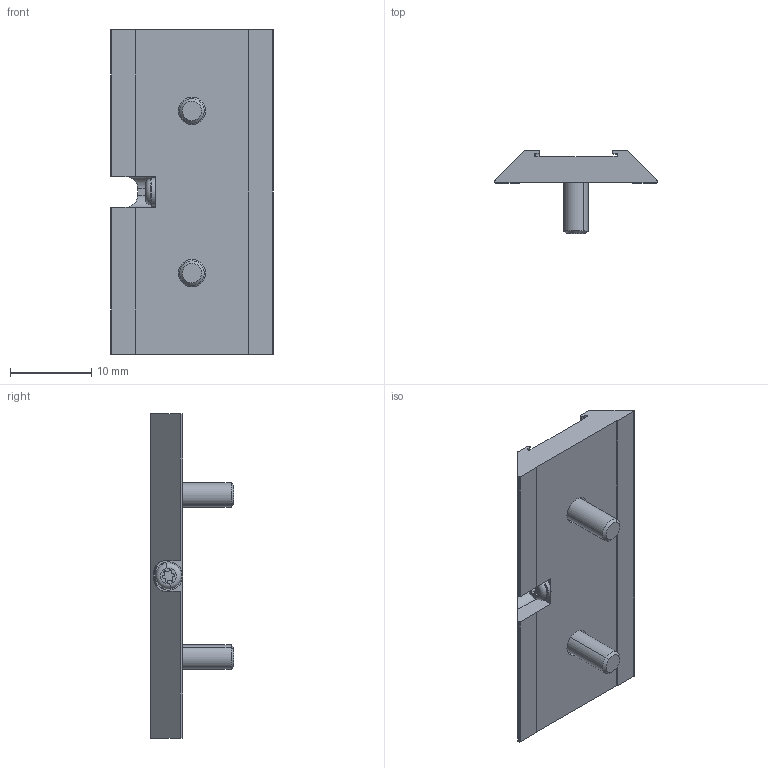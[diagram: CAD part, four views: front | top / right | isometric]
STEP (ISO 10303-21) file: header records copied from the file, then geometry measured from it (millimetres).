
FILE_DESCRIPTION (( 'STEP AP214' ), '1' );
FILE_NAME ('TRE004A00D02_00.STEP', '2024-10-03T09:16:22', ( '' ), ( '' ), 'SwSTEP 2.0', 'SolidWorks 2022', '' );
FILE_SCHEMA (( 'AUTOMOTIVE_DESIGN' ));
Length unit declared in the file: millimetre
Products named in the file (1): TRE004A00D02_00
Bounding box: 20 x 10.25 x 40 mm (x, y, z)
Volume: 2279.9 mm3; surface area: 2508.9 mm2
Topology: 4 solids, 4 shells, 193 faces, 518 edges, 339 vertices
Faces by surface type: cylinder 129, plane 46, cone 10, torus 6, bspline 2
Entity records: 9830 total; most frequent: CARTESIAN_POINT 2818, ORIENTED_EDGE 1032, DIRECTION 998, EDGE_CURVE 516, AXIS2_PLACEMENT_3D 385, VERTEX_POINT 339, LINE 228, VECTOR 228
